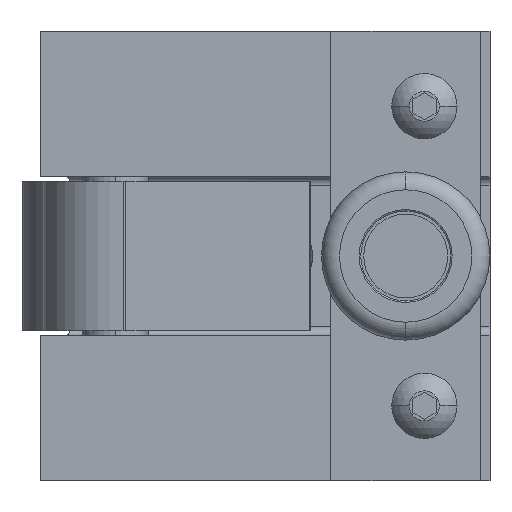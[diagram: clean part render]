
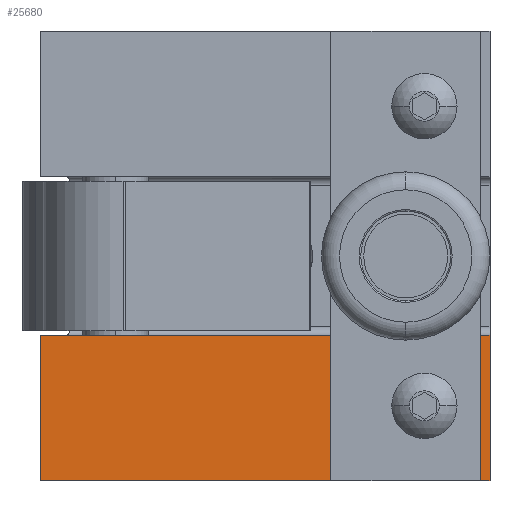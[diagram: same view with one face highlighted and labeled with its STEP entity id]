
A CAD part, left-side view. The second image highlights one B-rep face of the part: STEP entity #25680.
In plain terms, the highlighted planar face has unit normal (-1, 0, 0).
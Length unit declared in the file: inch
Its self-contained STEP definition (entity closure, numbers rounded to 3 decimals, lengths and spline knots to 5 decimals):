
#12403 = FACE_OUTER_BOUND ( 'NONE', #27722, .T. ) ;
#12404 = FACE_BOUND ( 'NONE', #27708, .T. ) ;
#12463 = CARTESIAN_POINT ( 'NONE',  ( -1.82852, -1.23748, -0.58242 ) ) ;
#12467 = DIRECTION ( 'NONE',  ( 0., 0., 1. ) ) ;
#12469 = DIRECTION ( 'NONE',  ( -1., 0., 0. ) ) ;
#12471 = CARTESIAN_POINT ( 'NONE',  ( -1.82852, -1.23748, -0.70742 ) ) ;
#12473 = AXIS2_PLACEMENT_3D ( 'NONE', #12471, #12469, #12467 ) ;
#12479 = DIRECTION ( 'NONE',  ( 0., 0., 1. ) ) ;
#12480 = DIRECTION ( 'NONE',  ( -1., 0., 0. ) ) ;
#12482 = CARTESIAN_POINT ( 'NONE',  ( -1.82852, -1.67548, -1.20742 ) ) ;
#12483 = AXIS2_PLACEMENT_3D ( 'NONE', #12482, #12480, #12479 ) ;
#12484 = CIRCLE ( 'NONE', #12473, 0.125 ) ;
#12485 = PLANE ( 'NONE',  #12483 ) ;
#12625 = CARTESIAN_POINT ( 'NONE',  ( -1.82852, -1.67548, -0.23742 ) ) ;
#12667 = CARTESIAN_POINT ( 'NONE',  ( -1.82852, 1.32452, -1.20742 ) ) ;
#12737 = CARTESIAN_POINT ( 'NONE',  ( -1.82852, -1.23748, -0.83242 ) ) ;
#12869 = DIRECTION ( 'NONE',  ( 0., 0., 1. ) ) ;
#12870 = DIRECTION ( 'NONE',  ( -1., 0., 0. ) ) ;
#12872 = CARTESIAN_POINT ( 'NONE',  ( -1.82852, -1.23748, -0.70742 ) ) ;
#12873 = AXIS2_PLACEMENT_3D ( 'NONE', #12872, #12870, #12869 ) ;
#12886 = CIRCLE ( 'NONE', #12873, 0.125 ) ;
#12963 = DIRECTION ( 'NONE',  ( 0., 0., 1. ) ) ;
#12965 = VECTOR ( 'NONE', #12963, 39.37008 ) ;
#12966 = CARTESIAN_POINT ( 'NONE',  ( -1.82852, 1.32452, -1.20742 ) ) ;
#12967 = LINE ( 'NONE', #12966, #12965 ) ;
#25462 = ORIENTED_EDGE ( 'NONE', *, *, #25463, .T. ) ;
#25463 = EDGE_CURVE ( 'NONE', #27696, #25464, #26920, .T. ) ;
#25464 = VERTEX_POINT ( 'NONE', #26916 ) ;
#25474 = ORIENTED_EDGE ( 'NONE', *, *, #25475, .T. ) ;
#25475 = EDGE_CURVE ( 'NONE', #25464, #25696, #26936, .T. ) ;
#25582 = VERTEX_POINT ( 'NONE', #27424 ) ;
#25584 = EDGE_CURVE ( 'NONE', #25582, #25696, #27423, .T. ) ;
#25680 = ADVANCED_FACE ( 'NONE', ( #12404, #12403 ), #12485, .T. ) ;
#25681 = ORIENTED_EDGE ( 'NONE', *, *, #25682, .F. ) ;
#25682 = EDGE_CURVE ( 'NONE', #25683, #27709, #12484, .T. ) ;
#25683 = VERTEX_POINT ( 'NONE', #12463 ) ;
#25696 = VERTEX_POINT ( 'NONE', #12625 ) ;
#26886 = DIRECTION ( 'NONE',  ( 0., -1., 0. ) ) ;
#26887 = VECTOR ( 'NONE', #26886, 39.37008 ) ;
#26888 = CARTESIAN_POINT ( 'NONE',  ( -1.82852, -1.67548, -1.20742 ) ) ;
#26916 = CARTESIAN_POINT ( 'NONE',  ( -1.82852, -1.67548, -1.20742 ) ) ;
#26920 = LINE ( 'NONE', #26888, #26887 ) ;
#26933 = DIRECTION ( 'NONE',  ( 0., 0., 1. ) ) ;
#26934 = VECTOR ( 'NONE', #26933, 39.37008 ) ;
#26935 = CARTESIAN_POINT ( 'NONE',  ( -1.82852, -1.67548, -1.20742 ) ) ;
#26936 = LINE ( 'NONE', #26935, #26934 ) ;
#27420 = DIRECTION ( 'NONE',  ( 0., -1., 0. ) ) ;
#27421 = VECTOR ( 'NONE', #27420, 39.37008 ) ;
#27422 = CARTESIAN_POINT ( 'NONE',  ( -1.82852, -1.67548, -0.23742 ) ) ;
#27423 = LINE ( 'NONE', #27422, #27421 ) ;
#27424 = CARTESIAN_POINT ( 'NONE',  ( -1.82852, 1.32452, -0.23742 ) ) ;
#27696 = VERTEX_POINT ( 'NONE', #12667 ) ;
#27708 = EDGE_LOOP ( 'NONE', ( #25681, #27720 ) ) ;
#27709 = VERTEX_POINT ( 'NONE', #12737 ) ;
#27720 = ORIENTED_EDGE ( 'NONE', *, *, #27721, .F. ) ;
#27721 = EDGE_CURVE ( 'NONE', #27709, #25683, #12886, .T. ) ;
#27722 = EDGE_LOOP ( 'NONE', ( #27723, #27727, #25462, #25474 ) ) ;
#27723 = ORIENTED_EDGE ( 'NONE', *, *, #25584, .F. ) ;
#27727 = ORIENTED_EDGE ( 'NONE', *, *, #27761, .F. ) ;
#27761 = EDGE_CURVE ( 'NONE', #27696, #25582, #12967, .T. ) ;
